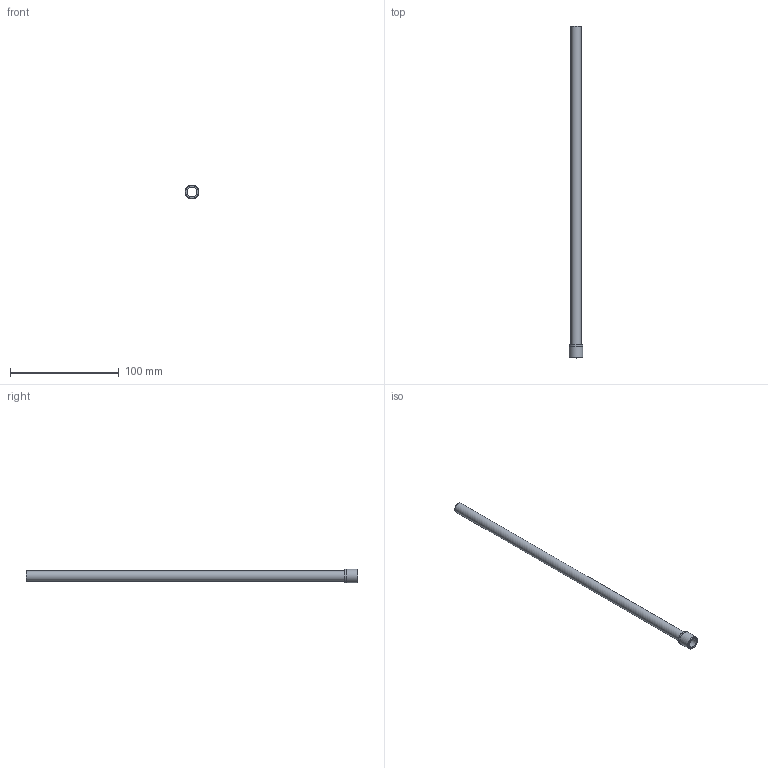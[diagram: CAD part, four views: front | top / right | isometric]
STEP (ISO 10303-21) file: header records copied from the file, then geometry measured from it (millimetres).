
FILE_DESCRIPTION(/* description */ (''),/* implementation_level */ '2;1');
FILE_NAME(/* name */ 'C:/Users/drich/Desktop/JHF375T-12 v1.step',/* time_stamp */ '2020-01-02T19:59:28-06:00',/* author */ (''),/* organization */ (''),/* preprocessor_version */ 'ST-DEVELOPER v18',/* originating_system */ 'Autodesk Translation Framework v8.12.0.6',/* authorisation */ '');
FILE_SCHEMA (('AUTOMOTIVE_DESIGN { 1 0 10303 214 3 1 1 }'));
Length unit declared in the file: inch
Products named in the file (1): JHF375T-12
Bounding box: 12.75 x 304.8 x 12.75 mm (x, y, z)
Volume: 3449.4 mm3; surface area: 17403.7 mm2
Topology: 1 solids, 1 shells, 10 faces, 24 edges, 18 vertices
Faces by surface type: cylinder 4, plane 4, cone 1, torus 1
Full cylindrical faces by diameter (mm): 8.636 x1, 9.271 x1, 12.598 x1, 12.751 x1
Entity records: 354 total; most frequent: DIRECTION 65, CARTESIAN_POINT 53, ORIENTED_EDGE 48, AXIS2_PLACEMENT_3D 30, EDGE_CURVE 24, CIRCLE 19, VERTEX_POINT 18, EDGE_LOOP 14
